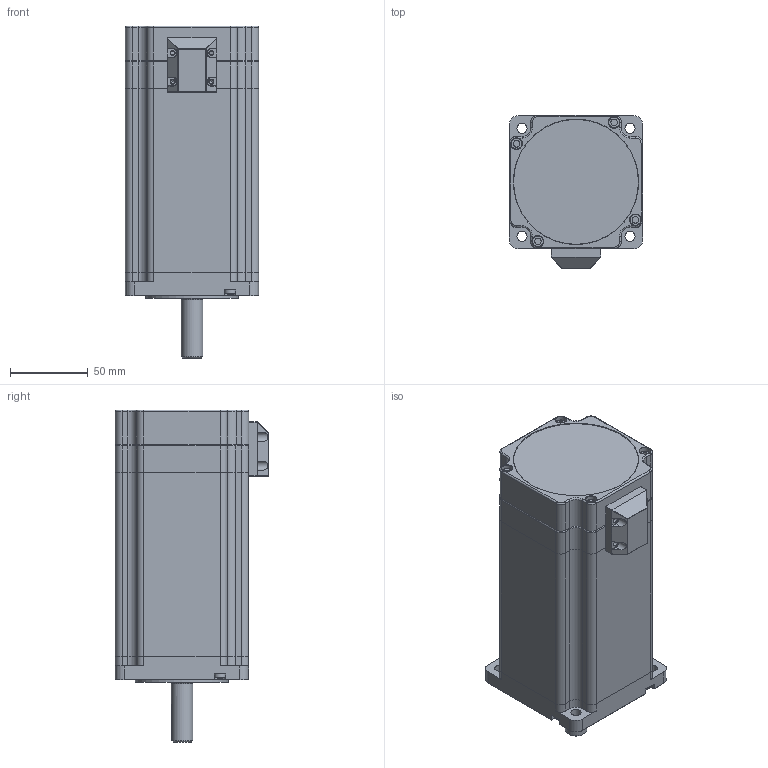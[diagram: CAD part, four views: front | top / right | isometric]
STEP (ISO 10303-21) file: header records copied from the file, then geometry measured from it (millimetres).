
FILE_DESCRIPTION (( 'STEP AP203' ), '1' );
FILE_NAME ('YK286EC156A1.STEP', '2018-11-05T00:35:39', ( '' ), ( '' ), 'SwSTEP 2.0', 'SolidWorks 2014', '' );
FILE_SCHEMA (( 'CONFIG_CONTROL_DESIGN' ));
Length unit declared in the file: millimetre
Products named in the file (18): 敕遠M4.0蹟佪; 286萇儂萇擢揤啣; YK286萇儂晤鎢ん欶; YK286ECXXA1ヶ裔; YK286ECXXA1隅赽; YK286ECXXA1粣郋; YK286ECXXA1綴裔; YK286EC156A1
Assembly tree (10 placements, depth 2):
  敕遠M4.0蹟佪
  YK286萇儂晤鎢ん欶
  YK286ECXXA1ヶ裔
  敕遠M4.0蹟佪
  YK286ECXXA1隅赽
Bounding box: 85.85 x 99 x 214 mm (x, y, z)
Volume: 761030.8 mm3; surface area: 155713.6 mm2
Topology: 10 solids, 10 shells, 615 faces, 1476 edges, 897 vertices
Faces by surface type: plane 291, cylinder 226, torus 55, bspline 24, cone 15, sphere 4
Full cylindrical faces by diameter (mm): 2.5 x4, 3.3 x12, 4 x4, 4.2 x4, 4.5 x4, 6 x4, 6.5 x4, 7.2 x8, 14 x1, 15 x1, 16 x2, 35 x2, 55.96 x1, 60 x1, 80.5 x1
Entity records: 17612 total; most frequent: CARTESIAN_POINT 3683, DIRECTION 2618, ORIENTED_EDGE 2454, EDGE_CURVE 1227, AXIS2_PLACEMENT_3D 979, VERTEX_POINT 796, EDGE_LOOP 663, LINE 660
